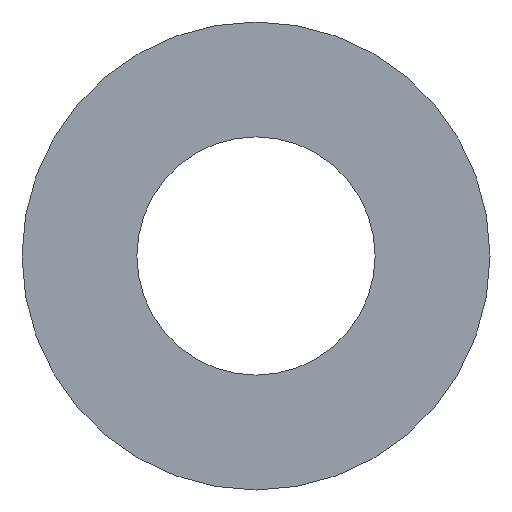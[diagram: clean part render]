
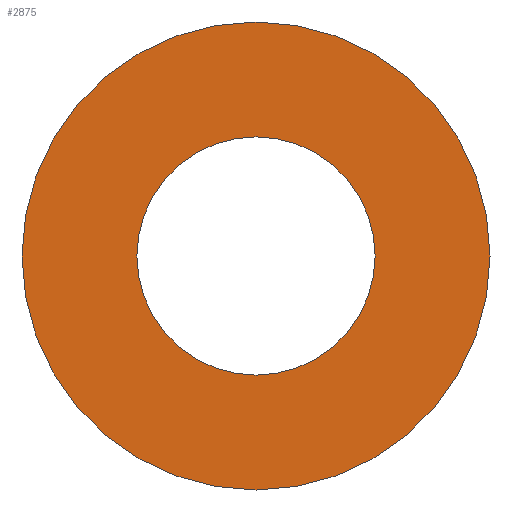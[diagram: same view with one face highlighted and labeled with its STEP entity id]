
A CAD part, front view. The second image highlights one B-rep face of the part: STEP entity #2875.
In plain terms, the highlighted planar face has unit normal (0, -1, 0).
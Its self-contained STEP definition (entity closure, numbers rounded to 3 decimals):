
#29 = EDGE_LOOP ( 'NONE', ( #308, #1344 ) ) ;
#52 = CARTESIAN_POINT ( 'NONE',  ( 0., -14., 14. ) ) ;
#55 = FACE_OUTER_BOUND ( 'NONE', #29, .T. ) ;
#56 = DIRECTION ( 'NONE',  ( 0., -1., 0. ) ) ;
#84 = ORIENTED_EDGE ( 'NONE', *, *, #632, .F. ) ;
#283 = CARTESIAN_POINT ( 'NONE',  ( 0., -14., 14. ) ) ;
#308 = ORIENTED_EDGE ( 'NONE', *, *, #2285, .T. ) ;
#445 = DIRECTION ( 'NONE',  ( 0., 1., 0. ) ) ;
#527 = CARTESIAN_POINT ( 'NONE',  ( 0., -14., 0. ) ) ;
#566 = CARTESIAN_POINT ( 'NONE',  ( 0., -14., -14. ) ) ;
#578 = CARTESIAN_POINT ( 'NONE',  ( 0., -14., 27.5 ) ) ;
#584 = AXIS2_PLACEMENT_3D ( 'NONE', #773, #2774, #996 ) ;
#632 = EDGE_CURVE ( 'NONE', #1170, #1262, #1472, .T. ) ;
#667 = EDGE_CURVE ( 'NONE', #1519, #1419, #2357, .T. ) ;
#716 = DIRECTION ( 'NONE',  ( 0., 0., 1. ) ) ;
#773 = CARTESIAN_POINT ( 'NONE',  ( 0., -14., 0. ) ) ;
#996 = DIRECTION ( 'NONE',  ( 0., 0., -1. ) ) ;
#1062 = EDGE_CURVE ( 'NONE', #1262, #1170, #2624, .T. ) ;
#1122 = CARTESIAN_POINT ( 'NONE',  ( 0., -14., 0. ) ) ;
#1170 = VERTEX_POINT ( 'NONE', #283 ) ;
#1240 = FACE_BOUND ( 'NONE', #1949, .T. ) ;
#1262 = VERTEX_POINT ( 'NONE', #566 ) ;
#1344 = ORIENTED_EDGE ( 'NONE', *, *, #667, .T. ) ;
#1419 = VERTEX_POINT ( 'NONE', #1908 ) ;
#1472 = CIRCLE ( 'NONE', #584, 14. ) ;
#1519 = VERTEX_POINT ( 'NONE', #578 ) ;
#1605 = ORIENTED_EDGE ( 'NONE', *, *, #1062, .F. ) ;
#1639 = DIRECTION ( 'NONE',  ( 0., 0., -1. ) ) ;
#1663 = DIRECTION ( 'NONE',  ( 0., 0., -1. ) ) ;
#1671 = DIRECTION ( 'NONE',  ( 0., -1., 0. ) ) ;
#1672 = AXIS2_PLACEMENT_3D ( 'NONE', #1122, #2462, #2686 ) ;
#1673 = AXIS2_PLACEMENT_3D ( 'NONE', #52, #445, #716 ) ;
#1908 = CARTESIAN_POINT ( 'NONE',  ( 0., -14., -27.5 ) ) ;
#1949 = EDGE_LOOP ( 'NONE', ( #1605, #84 ) ) ;
#1983 = AXIS2_PLACEMENT_3D ( 'NONE', #2539, #1671, #1663 ) ;
#2049 = PLANE ( 'NONE',  #1673 ) ;
#2057 = CIRCLE ( 'NONE', #2260, 27.5 ) ;
#2260 = AXIS2_PLACEMENT_3D ( 'NONE', #527, #56, #1639 ) ;
#2285 = EDGE_CURVE ( 'NONE', #1419, #1519, #2057, .T. ) ;
#2357 = CIRCLE ( 'NONE', #1983, 27.5 ) ;
#2462 = DIRECTION ( 'NONE',  ( 0., -1., 0. ) ) ;
#2539 = CARTESIAN_POINT ( 'NONE',  ( 0., -14., 0. ) ) ;
#2624 = CIRCLE ( 'NONE', #1672, 14. ) ;
#2686 = DIRECTION ( 'NONE',  ( 0., 0., -1. ) ) ;
#2774 = DIRECTION ( 'NONE',  ( 0., -1., 0. ) ) ;
#2875 = ADVANCED_FACE ( 'NONE', ( #1240, #55 ), #2049, .F. ) ;
